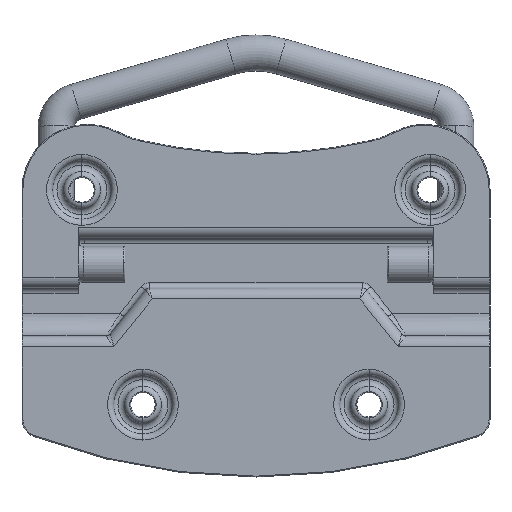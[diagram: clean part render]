
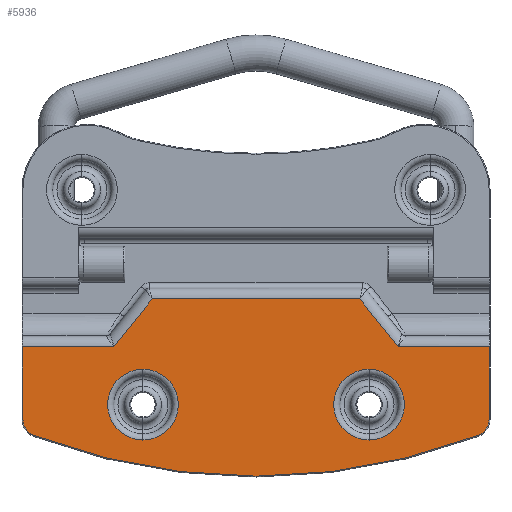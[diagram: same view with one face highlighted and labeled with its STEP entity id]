
A CAD part, front view. The second image highlights one B-rep face of the part: STEP entity #5936.
In plain terms, the highlighted planar face has unit normal (0, -1, 0).
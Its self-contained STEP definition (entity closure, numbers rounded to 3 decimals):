
#190 = DIRECTION ( 'NONE',  ( -1., 0., 0. ) ) ;
#191 = VECTOR ( 'NONE', #190, 1000. ) ;
#192 = CARTESIAN_POINT ( 'NONE',  ( -24.097, -0.6, 0.4 ) ) ;
#193 = LINE ( 'NONE', #192, #191 ) ;
#236 = CIRCLE ( 'NONE', #296, 7.823 ) ;
#238 = DIRECTION ( 'NONE',  ( 0., 0., -1. ) ) ;
#239 = DIRECTION ( 'NONE',  ( 0., -1., 0. ) ) ;
#240 = CARTESIAN_POINT ( 'NONE',  ( 25., -0.6, -23. ) ) ;
#241 = CARTESIAN_POINT ( 'NONE',  ( -25., -0.6, -23. ) ) ;
#243 = CARTESIAN_POINT ( 'NONE',  ( 51.75, -0.6, -39. ) ) ;
#244 = FACE_OUTER_BOUND ( 'NONE', #5960, .T. ) ;
#245 = FACE_BOUND ( 'NONE', #5894, .T. ) ;
#246 = CIRCLE ( 'NONE', #267, 3.8 ) ;
#247 = PLANE ( 'NONE',  #257 ) ;
#248 = DIRECTION ( 'NONE',  ( 0., 0., 1. ) ) ;
#249 = VECTOR ( 'NONE', #248, 1000. ) ;
#250 = CARTESIAN_POINT ( 'NONE',  ( 51.55, -0.6, -10.2 ) ) ;
#251 = LINE ( 'NONE', #250, #249 ) ;
#254 = CARTESIAN_POINT ( 'NONE',  ( 31.423, -0.6, -10.2 ) ) ;
#256 = FACE_BOUND ( 'NONE', #5937, .T. ) ;
#257 = AXIS2_PLACEMENT_3D ( 'NONE', #243, #239, #238 ) ;
#258 = DIRECTION ( 'NONE',  ( -1., 0., 0. ) ) ;
#259 = CARTESIAN_POINT ( 'NONE',  ( -22.943, -0.6, 0.4 ) ) ;
#260 = VECTOR ( 'NONE', #258, 1000. ) ;
#261 = CARTESIAN_POINT ( 'NONE',  ( 32.577, -0.6, -10.2 ) ) ;
#262 = LINE ( 'NONE', #261, #260 ) ;
#265 = CARTESIAN_POINT ( 'NONE',  ( 51.55, -0.6, -10.2 ) ) ;
#266 = CIRCLE ( 'NONE', #302, 7.823 ) ;
#267 = AXIS2_PLACEMENT_3D ( 'NONE', #305, #304, #303 ) ;
#283 = CARTESIAN_POINT ( 'NONE',  ( 51.55, -0.6, -26.267 ) ) ;
#294 = DIRECTION ( 'NONE',  ( 0., 0., -1. ) ) ;
#295 = DIRECTION ( 'NONE',  ( 0., 1., 0. ) ) ;
#296 = AXIS2_PLACEMENT_3D ( 'NONE', #241, #295, #294 ) ;
#298 = DIRECTION ( 'NONE',  ( 0., 0., -1. ) ) ;
#299 = DIRECTION ( 'NONE',  ( 0., 1., 0. ) ) ;
#301 = CARTESIAN_POINT ( 'NONE',  ( 49.095, -0.6, -29.821 ) ) ;
#302 = AXIS2_PLACEMENT_3D ( 'NONE', #240, #299, #298 ) ;
#303 = DIRECTION ( 'NONE',  ( 0., 0., -1. ) ) ;
#304 = DIRECTION ( 'NONE',  ( 0., 1., 0. ) ) ;
#305 = CARTESIAN_POINT ( 'NONE',  ( 47.75, -0.6, -26.267 ) ) ;
#322 = DIRECTION ( 'NONE',  ( 0., 0., -1. ) ) ;
#323 = DIRECTION ( 'NONE',  ( 0., 1., 0. ) ) ;
#324 = CARTESIAN_POINT ( 'NONE',  ( -47.75, -0.6, -26.267 ) ) ;
#325 = AXIS2_PLACEMENT_3D ( 'NONE', #324, #323, #322 ) ;
#326 = CIRCLE ( 'NONE', #325, 3.8 ) ;
#368 = DIRECTION ( 'NONE',  ( 0., 0., -1. ) ) ;
#369 = VECTOR ( 'NONE', #368, 1000. ) ;
#370 = CARTESIAN_POINT ( 'NONE',  ( -51.55, -0.6, -29. ) ) ;
#371 = LINE ( 'NONE', #370, #369 ) ;
#372 = LINE ( 'NONE', #421, #420 ) ;
#374 = DIRECTION ( 'NONE',  ( 0., 0., -1. ) ) ;
#375 = DIRECTION ( 'NONE',  ( 0., -1., 0. ) ) ;
#376 = AXIS2_PLACEMENT_3D ( 'NONE', #387, #375, #374 ) ;
#377 = CIRCLE ( 'NONE', #376, 138.703 ) ;
#378 = CARTESIAN_POINT ( 'NONE',  ( -51.55, -0.6, -26.267 ) ) ;
#384 = LINE ( 'NONE', #425, #424 ) ;
#385 = CARTESIAN_POINT ( 'NONE',  ( -31.423, -0.6, -10.2 ) ) ;
#387 = CARTESIAN_POINT ( 'NONE',  ( 0., -0.6, 99.903 ) ) ;
#394 = CARTESIAN_POINT ( 'NONE',  ( -51.55, -0.6, -10.2 ) ) ;
#415 = DIRECTION ( 'NONE',  ( -0.625, 0., 0.781 ) ) ;
#416 = VECTOR ( 'NONE', #415, 1000. ) ;
#417 = CARTESIAN_POINT ( 'NONE',  ( 53.404, -0.6, -37.676 ) ) ;
#418 = LINE ( 'NONE', #417, #416 ) ;
#419 = DIRECTION ( 'NONE',  ( -0.625, 0., -0.781 ) ) ;
#420 = VECTOR ( 'NONE', #419, 1000. ) ;
#421 = CARTESIAN_POINT ( 'NONE',  ( -13.014, -0.6, 12.811 ) ) ;
#423 = DIRECTION ( 'NONE',  ( -1., 0., 0. ) ) ;
#424 = VECTOR ( 'NONE', #423, 1000. ) ;
#425 = CARTESIAN_POINT ( 'NONE',  ( -51.75, -0.6, -10.2 ) ) ;
#426 = CARTESIAN_POINT ( 'NONE',  ( 22.943, -0.6, 0.4 ) ) ;
#2590 = AXIS2_PLACEMENT_3D ( 'NONE', #2628, #2626, #2625 ) ;
#2604 = CIRCLE ( 'NONE', #2590, 7.823 ) ;
#2618 = CARTESIAN_POINT ( 'NONE',  ( 25., -0.6, -30.823 ) ) ;
#2625 = DIRECTION ( 'NONE',  ( 0., 0., -1. ) ) ;
#2626 = DIRECTION ( 'NONE',  ( 0., 1., 0. ) ) ;
#2628 = CARTESIAN_POINT ( 'NONE',  ( 25., -0.6, -23. ) ) ;
#4834 = CARTESIAN_POINT ( 'NONE',  ( 25., -0.6, -15.177 ) ) ;
#5320 = VERTEX_POINT ( 'NONE', #7244 ) ;
#5398 = EDGE_CURVE ( 'NONE', #5320, #5417, #7360, .T. ) ;
#5417 = VERTEX_POINT ( 'NONE', #7345 ) ;
#5538 = VERTEX_POINT ( 'NONE', #7649 ) ;
#5591 = EDGE_CURVE ( 'NONE', #5538, #5601, #7730, .T. ) ;
#5601 = VERTEX_POINT ( 'NONE', #7782 ) ;
#5894 = EDGE_LOOP ( 'NONE', ( #5957, #5950 ) ) ;
#5895 = EDGE_CURVE ( 'NONE', #6007, #5930, #193, .T. ) ;
#5926 = ORIENTED_EDGE ( 'NONE', *, *, #6009, .T. ) ;
#5927 = ORIENTED_EDGE ( 'NONE', *, *, #5928, .T. ) ;
#5928 = EDGE_CURVE ( 'NONE', #5929, #5932, #262, .T. ) ;
#5929 = VERTEX_POINT ( 'NONE', #265 ) ;
#5930 = VERTEX_POINT ( 'NONE', #259 ) ;
#5931 = EDGE_CURVE ( 'NONE', #5949, #5929, #251, .T. ) ;
#5932 = VERTEX_POINT ( 'NONE', #254 ) ;
#5933 = ORIENTED_EDGE ( 'NONE', *, *, #5931, .T. ) ;
#5934 = ORIENTED_EDGE ( 'NONE', *, *, #8903, .T. ) ;
#5936 = ADVANCED_FACE ( 'NONE', ( #256, #245, #244 ), #247, .T. ) ;
#5937 = EDGE_LOOP ( 'NONE', ( #5941, #5934 ) ) ;
#5939 = EDGE_CURVE ( 'NONE', #5949, #5946, #246, .T. ) ;
#5940 = EDGE_CURVE ( 'NONE', #8917, #9689, #266, .T. ) ;
#5941 = ORIENTED_EDGE ( 'NONE', *, *, #5940, .T. ) ;
#5942 = EDGE_CURVE ( 'NONE', #5601, #5538, #236, .T. ) ;
#5944 = ORIENTED_EDGE ( 'NONE', *, *, #5939, .F. ) ;
#5946 = VERTEX_POINT ( 'NONE', #301 ) ;
#5948 = ORIENTED_EDGE ( 'NONE', *, *, #6008, .T. ) ;
#5949 = VERTEX_POINT ( 'NONE', #283 ) ;
#5950 = ORIENTED_EDGE ( 'NONE', *, *, #5591, .T. ) ;
#5957 = ORIENTED_EDGE ( 'NONE', *, *, #5942, .T. ) ;
#5960 = EDGE_LOOP ( 'NONE', ( #5944, #5933, #5927, #5926, #6006, #5948, #6002, #6001, #6004, #5998, #5997 ) ) ;
#5961 = EDGE_CURVE ( 'NONE', #5320, #5999, #326, .T. ) ;
#5996 = EDGE_CURVE ( 'NONE', #5417, #5946, #377, .T. ) ;
#5997 = ORIENTED_EDGE ( 'NONE', *, *, #5996, .T. ) ;
#5998 = ORIENTED_EDGE ( 'NONE', *, *, #5398, .T. ) ;
#5999 = VERTEX_POINT ( 'NONE', #378 ) ;
#6000 = EDGE_CURVE ( 'NONE', #6010, #5999, #371, .T. ) ;
#6001 = ORIENTED_EDGE ( 'NONE', *, *, #6000, .T. ) ;
#6002 = ORIENTED_EDGE ( 'NONE', *, *, #6005, .T. ) ;
#6003 = VERTEX_POINT ( 'NONE', #385 ) ;
#6004 = ORIENTED_EDGE ( 'NONE', *, *, #5961, .F. ) ;
#6005 = EDGE_CURVE ( 'NONE', #6003, #6010, #384, .T. ) ;
#6006 = ORIENTED_EDGE ( 'NONE', *, *, #5895, .T. ) ;
#6007 = VERTEX_POINT ( 'NONE', #426 ) ;
#6008 = EDGE_CURVE ( 'NONE', #5930, #6003, #372, .T. ) ;
#6009 = EDGE_CURVE ( 'NONE', #5932, #6007, #418, .T. ) ;
#6010 = VERTEX_POINT ( 'NONE', #394 ) ;
#7244 = CARTESIAN_POINT ( 'NONE',  ( -49.095, -0.6, -29.821 ) ) ;
#7345 = CARTESIAN_POINT ( 'NONE',  ( 0., -0.6, -38.8 ) ) ;
#7356 = DIRECTION ( 'NONE',  ( 0., 0., -1. ) ) ;
#7357 = DIRECTION ( 'NONE',  ( 0., -1., 0. ) ) ;
#7358 = CARTESIAN_POINT ( 'NONE',  ( 0., -0.6, 99.903 ) ) ;
#7359 = AXIS2_PLACEMENT_3D ( 'NONE', #7358, #7357, #7356 ) ;
#7360 = CIRCLE ( 'NONE', #7359, 138.703 ) ;
#7649 = CARTESIAN_POINT ( 'NONE',  ( -25., -0.6, -15.177 ) ) ;
#7724 = DIRECTION ( 'NONE',  ( 0., 0., -1. ) ) ;
#7725 = DIRECTION ( 'NONE',  ( 0., 1., 0. ) ) ;
#7730 = CIRCLE ( 'NONE', #7742, 7.823 ) ;
#7742 = AXIS2_PLACEMENT_3D ( 'NONE', #7748, #7725, #7724 ) ;
#7748 = CARTESIAN_POINT ( 'NONE',  ( -25., -0.6, -23. ) ) ;
#7782 = CARTESIAN_POINT ( 'NONE',  ( -25., -0.6, -30.823 ) ) ;
#8903 = EDGE_CURVE ( 'NONE', #9689, #8917, #2604, .T. ) ;
#8917 = VERTEX_POINT ( 'NONE', #2618 ) ;
#9689 = VERTEX_POINT ( 'NONE', #4834 ) ;
